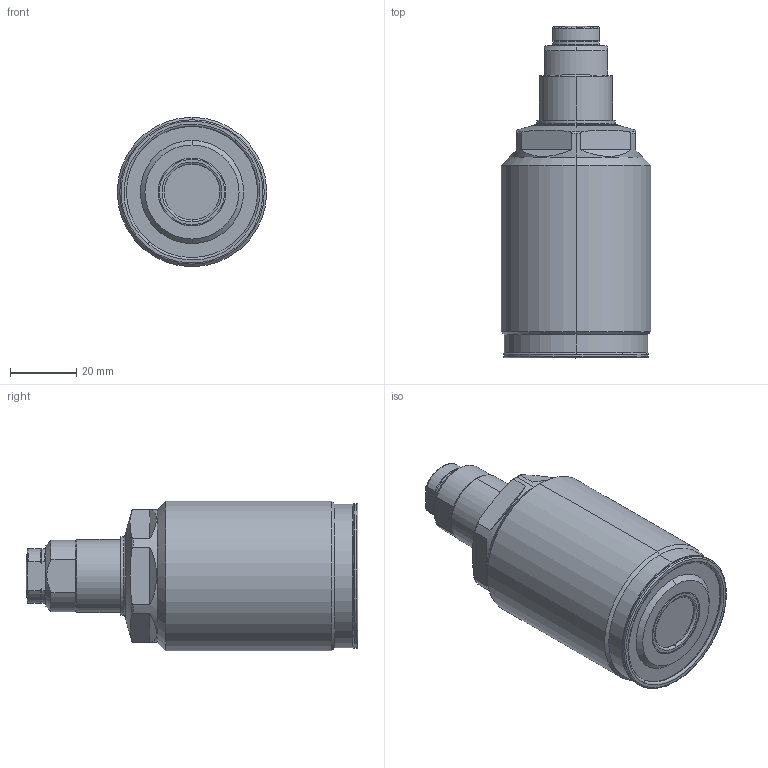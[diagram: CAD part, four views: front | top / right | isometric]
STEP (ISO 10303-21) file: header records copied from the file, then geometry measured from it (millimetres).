
FILE_DESCRIPTION(/* description */ (''),/* implementation_level */ '2;1');
FILE_NAME(/* name */ 'GSS06.stp',/* time_stamp */ '2025-01-05T13:18:09+08:00',/* author */ (''),/* organization */ (''),/* preprocessor_version */ 'ST-DEVELOPER v16.7',/* originating_system */ 'SIEMENS PLM Software NX 12.0',/* authorisation */ '');
FILE_SCHEMA (('AUTOMOTIVE_DESIGN { 1 0 10303 214 3 1 1 1 }'));
Length unit declared in the file: millimetre
Products named in the file (7): TNC0403_ContactBolt_M12; AS012; GSS06-04; GSS06-02; GSS06-01; GSS06-03; TNC1603-x-E_step
Assembly tree (6 placements, depth 3):
  TNC1603-x-E_step
    GSS06-01
    GSS06-02
    GSS06-03
      AS012
      TNC0403_ContactBolt_M12
    GSS06-04
Bounding box: 45 x 99.9 x 45 mm (x, y, z)
Volume: 108354.5 mm3; surface area: 18132.5 mm2
Topology: 5 solids, 5 shells, 149 faces, 334 edges, 203 vertices
Faces by surface type: torus 45, cylinder 41, plane 35, cone 26, sphere 2
Entity records: 4669 total; most frequent: CARTESIAN_POINT 1111, DIRECTION 797, ORIENTED_EDGE 668, AXIS2_PLACEMENT_3D 353, EDGE_CURVE 334, VERTEX_POINT 203, CIRCLE 197, EDGE_LOOP 163
